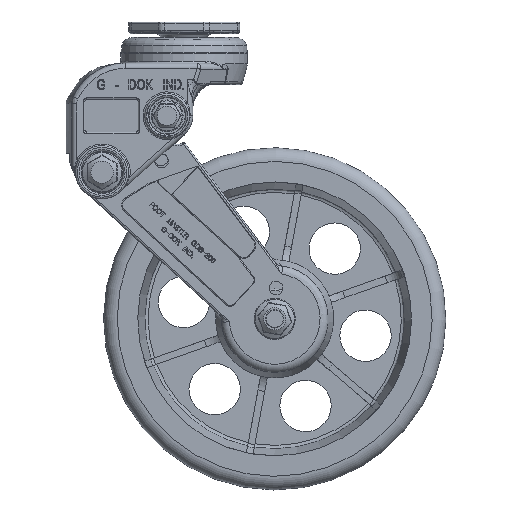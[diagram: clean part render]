
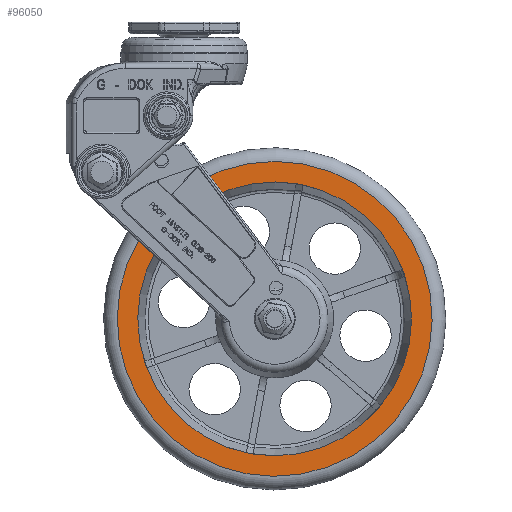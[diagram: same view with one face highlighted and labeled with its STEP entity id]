
A CAD part, left-side view. The second image highlights one B-rep face of the part: STEP entity #96050.
In plain terms, the highlighted planar face has unit normal (-1, 0, 0).
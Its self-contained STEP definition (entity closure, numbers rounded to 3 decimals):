
#95485=CARTESIAN_POINT('',(-20.,-139.585,-133.228));
#95486=VERTEX_POINT('',#95485);
#95487=CARTESIAN_POINT('',(-20.,-52.863,-163.94));
#95488=DIRECTION('',(1.0,0.,0.));
#95489=DIRECTION('',(0.,0.943,-0.334));
#95490=AXIS2_PLACEMENT_3D('',#95487,#95488,#95489);
#95491=CIRCLE('',#95490,92.0);
#95492=EDGE_CURVE('',#95486,#95486,#95491,.T.);
#95986=CARTESIAN_POINT('',(-20.,-130.63,-136.4));
#95987=DIRECTION('',(-1.0,0.0,0.0));
#95988=DIRECTION('',(0.0,0.334,0.943));
#95989=AXIS2_PLACEMENT_3D('',#95986,#95987,#95988);
#95990=PLANE('',#95989);
#95991=ORIENTED_EDGE('',*,*,#95492,.F.);
#95992=EDGE_LOOP('',(#95991));
#95993=FACE_OUTER_BOUND('',#95992,.T.);
#95994=CARTESIAN_POINT('',(-20.,-128.274,-137.234));
#95995=VERTEX_POINT('',#95994);
#95996=CARTESIAN_POINT('',(-20.,-67.44,-85.279));
#95997=VERTEX_POINT('',#95996);
#95998=CARTESIAN_POINT('',(-20.,-52.863,-163.94));
#95999=DIRECTION('',(-1.,0.,0.));
#96000=DIRECTION('',(0.,-0.943,0.334));
#96001=AXIS2_PLACEMENT_3D('',#95998,#95999,#96000);
#96002=CIRCLE('',#96001,80.);
#96003=EDGE_CURVE('',#95995,#95997,#96002,.T.);
#96004=ORIENTED_EDGE('',*,*,#96003,.F.);
#96005=CARTESIAN_POINT('',(-20.,-113.696,-215.895));
#96006=VERTEX_POINT('',#96005);
#96007=CARTESIAN_POINT('',(-20.,-52.863,-163.94));
#96008=DIRECTION('',(-1.,0.,0.));
#96009=DIRECTION('',(0.,-0.943,0.334));
#96010=AXIS2_PLACEMENT_3D('',#96007,#96008,#96009);
#96011=CIRCLE('',#96010,80.);
#96012=EDGE_CURVE('',#96006,#95995,#96011,.T.);
#96013=ORIENTED_EDGE('',*,*,#96012,.F.);
#96014=CARTESIAN_POINT('',(-20.,-38.285,-242.601));
#96015=VERTEX_POINT('',#96014);
#96016=CARTESIAN_POINT('',(-20.,-52.863,-163.94));
#96017=DIRECTION('',(-1.,0.,0.));
#96018=DIRECTION('',(0.,-0.943,0.334));
#96019=AXIS2_PLACEMENT_3D('',#96016,#96017,#96018);
#96020=CIRCLE('',#96019,80.);
#96021=EDGE_CURVE('',#96015,#96006,#96020,.T.);
#96022=ORIENTED_EDGE('',*,*,#96021,.F.);
#96023=CARTESIAN_POINT('',(-20.,22.548,-190.646));
#96024=VERTEX_POINT('',#96023);
#96025=CARTESIAN_POINT('',(-20.,-52.863,-163.94));
#96026=DIRECTION('',(-1.,0.,0.));
#96027=DIRECTION('',(0.,-0.943,0.334));
#96028=AXIS2_PLACEMENT_3D('',#96025,#96026,#96027);
#96029=CIRCLE('',#96028,80.);
#96030=EDGE_CURVE('',#96024,#96015,#96029,.T.);
#96031=ORIENTED_EDGE('',*,*,#96030,.F.);
#96032=CARTESIAN_POINT('',(-20.,7.971,-111.985));
#96033=VERTEX_POINT('',#96032);
#96034=CARTESIAN_POINT('',(-20.,-52.863,-163.94));
#96035=DIRECTION('',(-1.,0.,0.));
#96036=DIRECTION('',(0.,-0.943,0.334));
#96037=AXIS2_PLACEMENT_3D('',#96034,#96035,#96036);
#96038=CIRCLE('',#96037,80.);
#96039=EDGE_CURVE('',#96033,#96024,#96038,.T.);
#96040=ORIENTED_EDGE('',*,*,#96039,.F.);
#96041=CARTESIAN_POINT('',(-20.,-52.863,-163.94));
#96042=DIRECTION('',(-1.,0.,0.));
#96043=DIRECTION('',(0.,-0.943,0.334));
#96044=AXIS2_PLACEMENT_3D('',#96041,#96042,#96043);
#96045=CIRCLE('',#96044,80.);
#96046=EDGE_CURVE('',#95997,#96033,#96045,.T.);
#96047=ORIENTED_EDGE('',*,*,#96046,.F.);
#96048=EDGE_LOOP('',(#96004,#96013,#96022,#96031,#96040,#96047));
#96049=FACE_BOUND('',#96048,.T.);
#96050=ADVANCED_FACE('',(#95993,#96049),#95990,.T.);
